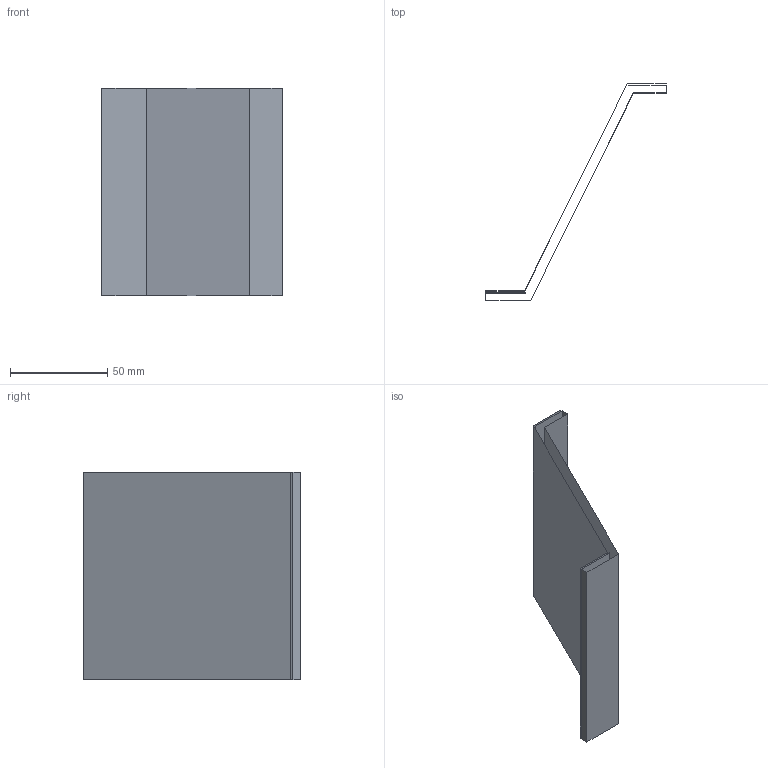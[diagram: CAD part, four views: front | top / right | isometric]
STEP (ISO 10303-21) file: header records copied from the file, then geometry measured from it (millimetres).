
FILE_DESCRIPTION(('CATIA V5 STEP Exchange'),'2;1');
FILE_NAME('C:\_Andres\UNIVERSIDAD\IQS\ASIGNATURAS\DAO\EXF\EXF-16172c\2inicio\Carreras_Buscato_Ej06_v7.stp','2017-03-05T21:01:23+00:00',('none'),('none'),'CATIA Version 5-6 Release 2014 SP1 HF18','CATIA V5 STEP AP203','none');
FILE_SCHEMA(('CONFIG_CONTROL_DESIGN'));
Length unit declared in the file: millimetre
Products named in the file (1): Carreras_Buscato_Ej06_v7
Bounding box: 93 x 112 x 107 mm (x, y, z)
Surface area: 39249.1 mm2 (no closed solid volume)
Topology: 0 solids, 2 shells, 10 faces, 42 edges, 36 vertices
Faces by surface type: plane 10
Entity records: 461 total; most frequent: CARTESIAN_POINT 100, DIRECTION 59, ORIENTED_EDGE 40, VECTOR 39, LINE 39, EDGE_CURVE 32, VERTEX_POINT 24, AXIS2_PLACEMENT_3D 11
